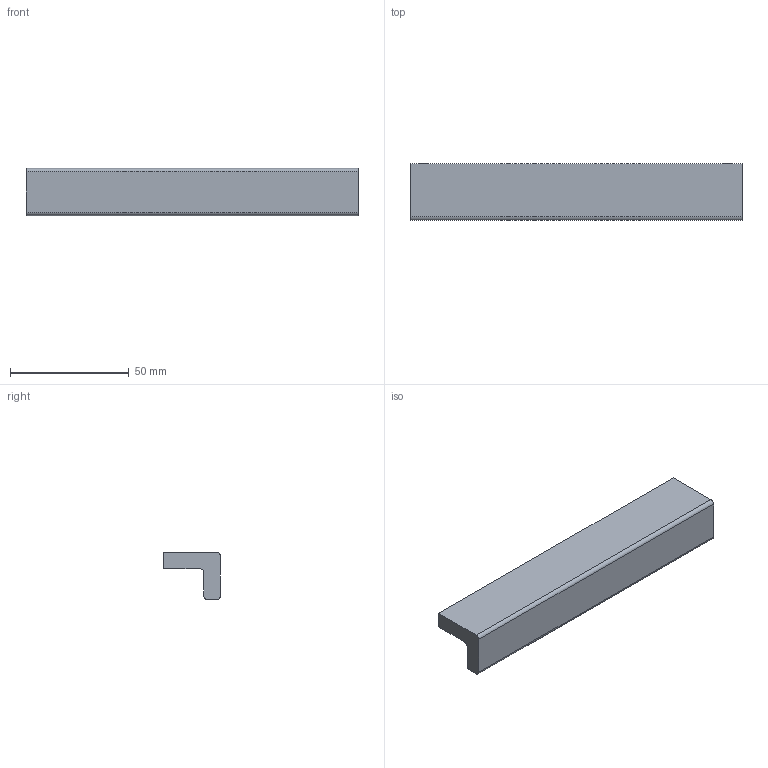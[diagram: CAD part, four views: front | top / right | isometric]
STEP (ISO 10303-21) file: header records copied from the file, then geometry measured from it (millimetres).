
FILE_DESCRIPTION( ( '' ), '1' );
FILE_NAME( 'D:/1.AUTOCAD EXPORT/Group 10/sheet_10_1/115011.stp', '2013-10-22T03:21:16', ( '' ), ( '' ), ' ', ' ', ' ' );
FILE_SCHEMA( ( 'automotive_design' ) );
Length unit declared in the file: millimetre
Products named in the file (1): 1
Bounding box: 140 x 24 x 20 mm (x, y, z)
Volume: 35923.7 mm3; surface area: 12676.6 mm2
Topology: 1 solids, 1 shells, 18 faces, 42 edges, 28 vertices
Faces by surface type: plane 10, cylinder 8
Entity records: 1040 total; most frequent: DIRECTION 96, STYLED_ITEM 89, PRESENTATION_STYLE_ASSIGNMENT 89, CARTESIAN_POINT 89, COLOUR_RGB 89, ORIENTED_EDGE 84, EDGE_CURVE 42, CURVE_STYLE 42
